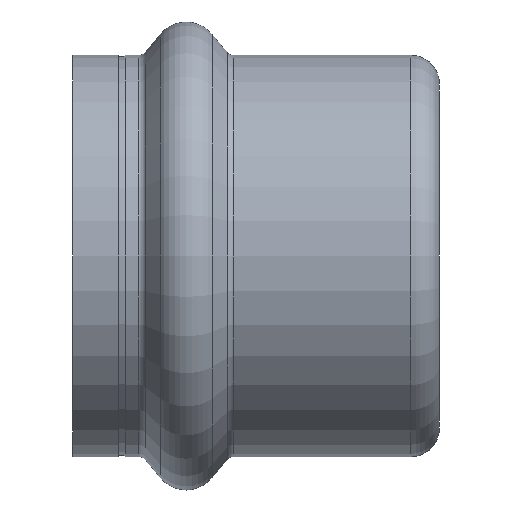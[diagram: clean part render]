
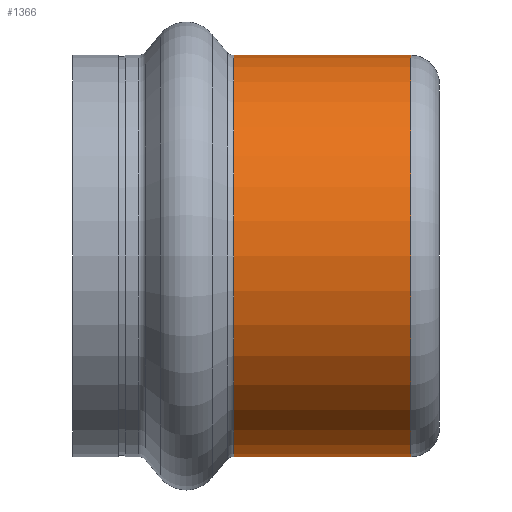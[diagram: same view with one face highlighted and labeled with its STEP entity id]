
A CAD part, front view. The second image highlights one B-rep face of the part: STEP entity #1366.
In plain terms, the highlighted cylindrical face has radius 23 mm (diameter 46 mm), a partial arc.
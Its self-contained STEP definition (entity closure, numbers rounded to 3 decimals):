
#28 = CARTESIAN_POINT ( 'NONE',  ( 22.457, 0., -23. ) ) ;
#86 = VERTEX_POINT ( 'NONE', #542 ) ;
#98 = AXIS2_PLACEMENT_3D ( 'NONE', #526, #472, #544 ) ;
#106 = CIRCLE ( 'NONE', #478, 23. ) ;
#116 = ORIENTED_EDGE ( 'NONE', *, *, #693, .T. ) ;
#141 = VERTEX_POINT ( 'NONE', #1097 ) ;
#200 = EDGE_CURVE ( 'NONE', #141, #1161, #106, .T. ) ;
#226 = EDGE_CURVE ( 'NONE', #1147, #86, #947, .T. ) ;
#243 = CARTESIAN_POINT ( 'NONE',  ( -7.298, 0., -23. ) ) ;
#248 = DIRECTION ( 'NONE',  ( -1., 0., 0. ) ) ;
#262 = VECTOR ( 'NONE', #629, 1000. ) ;
#418 = EDGE_CURVE ( 'NONE', #1147, #1161, #488, .T. ) ;
#472 = DIRECTION ( 'NONE',  ( -1., 0., 0. ) ) ;
#478 = AXIS2_PLACEMENT_3D ( 'NONE', #739, #752, #702 ) ;
#488 = LINE ( 'NONE', #243, #786 ) ;
#526 = CARTESIAN_POINT ( 'NONE',  ( -7.298, 0., 0. ) ) ;
#542 = CARTESIAN_POINT ( 'NONE',  ( 42.7, 0., 23. ) ) ;
#544 = DIRECTION ( 'NONE',  ( 0., 0., 1. ) ) ;
#606 = FACE_OUTER_BOUND ( 'NONE', #921, .T. ) ;
#629 = DIRECTION ( 'NONE',  ( -1., 0., 0. ) ) ;
#660 = CARTESIAN_POINT ( 'NONE',  ( -7.298, 0., 23. ) ) ;
#693 = EDGE_CURVE ( 'NONE', #86, #141, #1184, .T. ) ;
#702 = DIRECTION ( 'NONE',  ( 0., 0., -1. ) ) ;
#739 = CARTESIAN_POINT ( 'NONE',  ( 22.457, 0., 0. ) ) ;
#752 = DIRECTION ( 'NONE',  ( 1., 0., 0. ) ) ;
#783 = AXIS2_PLACEMENT_3D ( 'NONE', #829, #822, #814 ) ;
#786 = VECTOR ( 'NONE', #248, 1000. ) ;
#814 = DIRECTION ( 'NONE',  ( 0., 0., 1. ) ) ;
#822 = DIRECTION ( 'NONE',  ( -1., 0., 0. ) ) ;
#829 = CARTESIAN_POINT ( 'NONE',  ( 42.7, 0., 0. ) ) ;
#921 = EDGE_LOOP ( 'NONE', ( #952, #985, #116, #1194 ) ) ;
#947 = CIRCLE ( 'NONE', #783, 23. ) ;
#952 = ORIENTED_EDGE ( 'NONE', *, *, #418, .F. ) ;
#985 = ORIENTED_EDGE ( 'NONE', *, *, #226, .T. ) ;
#1082 = CYLINDRICAL_SURFACE ( 'NONE', #98, 23. ) ;
#1097 = CARTESIAN_POINT ( 'NONE',  ( 22.457, 0., 23. ) ) ;
#1147 = VERTEX_POINT ( 'NONE', #1231 ) ;
#1161 = VERTEX_POINT ( 'NONE', #28 ) ;
#1184 = LINE ( 'NONE', #660, #262 ) ;
#1194 = ORIENTED_EDGE ( 'NONE', *, *, #200, .T. ) ;
#1231 = CARTESIAN_POINT ( 'NONE',  ( 42.7, 0., -23. ) ) ;
#1366 = ADVANCED_FACE ( 'NONE', ( #606 ), #1082, .T. ) ;
